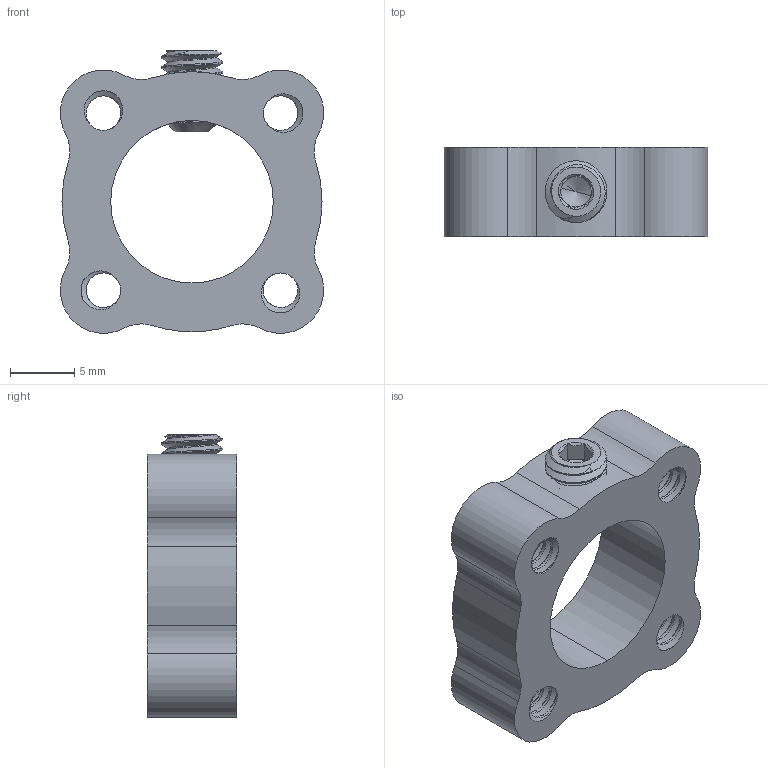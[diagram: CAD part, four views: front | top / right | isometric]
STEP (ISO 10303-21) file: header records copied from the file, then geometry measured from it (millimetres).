
FILE_DESCRIPTION (( 'STEP AP203' ), '1' );
FILE_NAME ('545560 assembly.STEP', '2016-08-17T18:40:19', ( '' ), ( '' ), 'SwSTEP 2.0', 'SolidWorks 2014', '' );
FILE_SCHEMA (( 'CONFIG_CONTROL_DESIGN' ));
Length unit declared in the file: inch
Products named in the file (3): 632138_91375A438; 545560 assembly; 545560
Assembly tree (2 placements, depth 2):
  545560 assembly
    545560
    632138_91375A438
Bounding box: 20.57 x 6.99 x 22.09 mm (x, y, z)
Volume: 1677.3 mm3; surface area: 1951.9 mm2
Topology: 2 solids, 2 shells, 254 faces, 733 edges, 479 vertices
Faces by surface type: cylinder 209, cone 16, plane 15, bspline 14
Entity records: 17536 total; most frequent: CARTESIAN_POINT 11737, ORIENTED_EDGE 1458, DIRECTION 886, EDGE_CURVE 729, VERTEX_POINT 479, AXIS2_PLACEMENT_3D 331, EDGE_LOOP 266, ADVANCED_FACE 254
